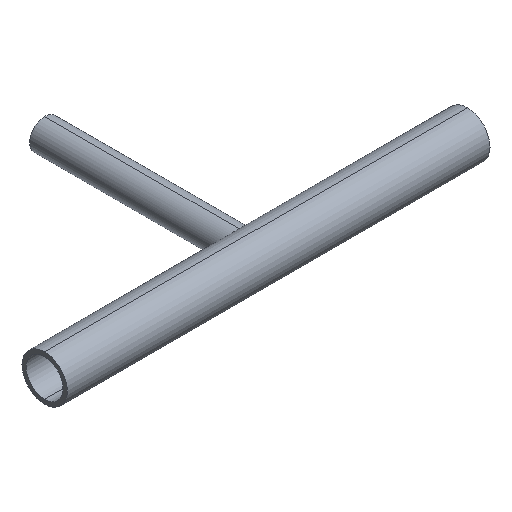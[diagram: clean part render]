
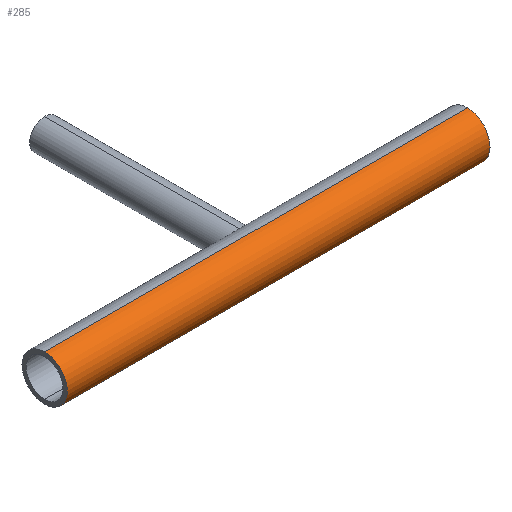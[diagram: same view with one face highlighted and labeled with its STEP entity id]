
A CAD part, isometric view. The second image highlights one B-rep face of the part: STEP entity #285.
In plain terms, the highlighted cylindrical face has radius 4.765 mm (diameter 9.53 mm), a partial arc.
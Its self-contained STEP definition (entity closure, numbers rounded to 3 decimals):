
#4 = CARTESIAN_POINT ( 'NONE',  ( 44.5, 0., -4.765 ) ) ;
#11 = EDGE_CURVE ( 'NONE', #331, #145, #251, .T. ) ;
#29 = ORIENTED_EDGE ( 'NONE', *, *, #469, .F. ) ;
#30 = CARTESIAN_POINT ( 'NONE',  ( 44.5, 0., 0. ) ) ;
#37 = EDGE_CURVE ( 'NONE', #145, #283, #361, .T. ) ;
#40 = CARTESIAN_POINT ( 'NONE',  ( -44.5, 0., -4.765 ) ) ;
#86 = CARTESIAN_POINT ( 'NONE',  ( -44.5, 0., 0. ) ) ;
#91 = DIRECTION ( 'NONE',  ( 1., 0., 0. ) ) ;
#96 = VERTEX_POINT ( 'NONE', #360 ) ;
#138 = AXIS2_PLACEMENT_3D ( 'NONE', #30, #252, #466 ) ;
#145 = VERTEX_POINT ( 'NONE', #4 ) ;
#146 = FACE_OUTER_BOUND ( 'NONE', #295, .T. ) ;
#149 = DIRECTION ( 'NONE',  ( 0., 0., -1. ) ) ;
#163 = AXIS2_PLACEMENT_3D ( 'NONE', #86, #200, #459 ) ;
#178 = ORIENTED_EDGE ( 'NONE', *, *, #461, .T. ) ;
#180 = DIRECTION ( 'NONE',  ( 1., 0., 0. ) ) ;
#200 = DIRECTION ( 'NONE',  ( 1., 0., 0. ) ) ;
#205 = VECTOR ( 'NONE', #91, 1000. ) ;
#217 = CIRCLE ( 'NONE', #163, 4.765 ) ;
#223 = DIRECTION ( 'NONE',  ( 1., 0., 0. ) ) ;
#251 = LINE ( 'NONE', #435, #351 ) ;
#252 = DIRECTION ( 'NONE',  ( -1., 0., 0. ) ) ;
#264 = CARTESIAN_POINT ( 'NONE',  ( 44.5, 0., 4.765 ) ) ;
#283 = VERTEX_POINT ( 'NONE', #264 ) ;
#285 = ADVANCED_FACE ( 'NONE', ( #146 ), #413, .T. ) ;
#295 = EDGE_LOOP ( 'NONE', ( #29, #178, #407, #394 ) ) ;
#303 = LINE ( 'NONE', #452, #205 ) ;
#331 = VERTEX_POINT ( 'NONE', #40 ) ;
#332 = CARTESIAN_POINT ( 'NONE',  ( -44.5, 0., 0. ) ) ;
#350 = AXIS2_PLACEMENT_3D ( 'NONE', #332, #223, #149 ) ;
#351 = VECTOR ( 'NONE', #180, 1000. ) ;
#360 = CARTESIAN_POINT ( 'NONE',  ( -44.5, 0., 4.765 ) ) ;
#361 = CIRCLE ( 'NONE', #138, 4.765 ) ;
#394 = ORIENTED_EDGE ( 'NONE', *, *, #37, .T. ) ;
#407 = ORIENTED_EDGE ( 'NONE', *, *, #11, .T. ) ;
#413 = CYLINDRICAL_SURFACE ( 'NONE', #350, 4.765 ) ;
#435 = CARTESIAN_POINT ( 'NONE',  ( -44.5, 0., -4.765 ) ) ;
#452 = CARTESIAN_POINT ( 'NONE',  ( -44.5, 0., 4.765 ) ) ;
#459 = DIRECTION ( 'NONE',  ( 0., 0., -1. ) ) ;
#461 = EDGE_CURVE ( 'NONE', #96, #331, #217, .T. ) ;
#466 = DIRECTION ( 'NONE',  ( 0., 0., -1. ) ) ;
#469 = EDGE_CURVE ( 'NONE', #96, #283, #303, .T. ) ;
